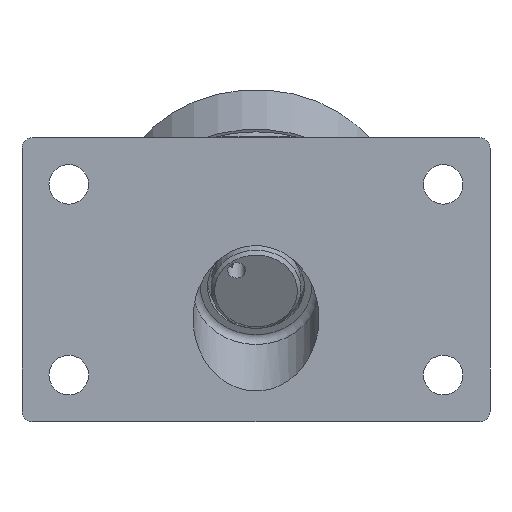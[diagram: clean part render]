
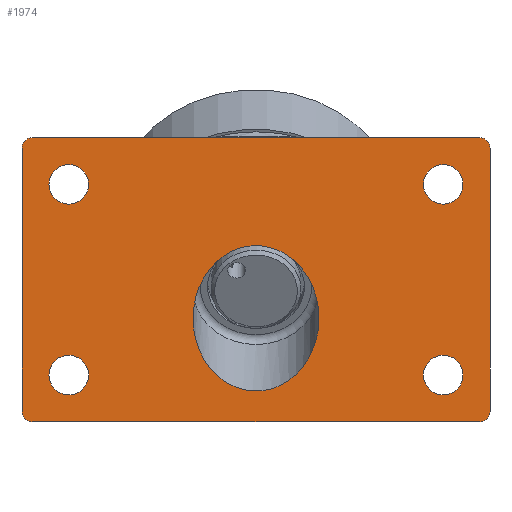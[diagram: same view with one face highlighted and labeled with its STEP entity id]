
A CAD part, front view. The second image highlights one B-rep face of the part: STEP entity #1974.
In plain terms, the highlighted planar face has unit normal (0, -1, 0) as drawn and (0, 0, -1) by its records, which use the part's own axes.
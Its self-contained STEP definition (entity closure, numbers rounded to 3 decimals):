
#50=ELLIPSE('',#2268,20.207,17.5);
#158=LINE('',#3794,#237);
#161=LINE('',#3802,#240);
#164=LINE('',#3810,#243);
#166=LINE('',#3816,#245);
#237=VECTOR('',#2719,73.);
#240=VECTOR('',#2728,124.);
#243=VECTOR('',#2737,73.);
#245=VECTOR('',#2745,124.);
#338=FACE_BOUND('',#621,.T.);
#339=FACE_BOUND('',#622,.T.);
#340=FACE_BOUND('',#623,.T.);
#341=FACE_BOUND('',#624,.T.);
#342=FACE_BOUND('',#625,.T.);
#374=PLANE('',#2271);
#473=FACE_OUTER_BOUND('',#620,.T.);
#620=EDGE_LOOP('',(#1597,#1598,#1599,#1600,#1601,#1602,#1603,#1604));
#621=EDGE_LOOP('',(#1605));
#622=EDGE_LOOP('',(#1606));
#623=EDGE_LOOP('',(#1607));
#624=EDGE_LOOP('',(#1608));
#625=EDGE_LOOP('',(#1609));
#765=CIRCLE('',#2247,3.);
#766=CIRCLE('',#2250,3.);
#767=CIRCLE('',#2253,3.);
#768=CIRCLE('',#2256,3.);
#775=CIRCLE('',#2272,5.5);
#776=CIRCLE('',#2273,5.5);
#777=CIRCLE('',#2274,5.5);
#778=CIRCLE('',#2275,5.5);
#916=VERTEX_POINT('',#3786);
#917=VERTEX_POINT('',#3788);
#918=VERTEX_POINT('',#3792);
#919=VERTEX_POINT('',#3796);
#920=VERTEX_POINT('',#3800);
#921=VERTEX_POINT('',#3804);
#922=VERTEX_POINT('',#3808);
#923=VERTEX_POINT('',#3812);
#928=VERTEX_POINT('',#3831);
#930=VERTEX_POINT('',#3840);
#931=VERTEX_POINT('',#3842);
#932=VERTEX_POINT('',#3844);
#933=VERTEX_POINT('',#3846);
#1141=EDGE_CURVE('',#916,#917,#765,.T.);
#1144=EDGE_CURVE('',#916,#918,#158,.T.);
#1146=EDGE_CURVE('',#919,#918,#766,.T.);
#1148=EDGE_CURVE('',#919,#920,#161,.T.);
#1150=EDGE_CURVE('',#921,#920,#767,.T.);
#1152=EDGE_CURVE('',#921,#922,#164,.T.);
#1154=EDGE_CURVE('',#923,#922,#768,.T.);
#1155=EDGE_CURVE('',#923,#917,#166,.T.);
#1162=EDGE_CURVE('',#928,#928,#50,.T.);
#1166=EDGE_CURVE('',#930,#930,#775,.T.);
#1167=EDGE_CURVE('',#931,#931,#776,.T.);
#1168=EDGE_CURVE('',#932,#932,#777,.T.);
#1169=EDGE_CURVE('',#933,#933,#778,.T.);
#1597=ORIENTED_EDGE('',*,*,#1150,.F.);
#1598=ORIENTED_EDGE('',*,*,#1152,.T.);
#1599=ORIENTED_EDGE('',*,*,#1154,.F.);
#1600=ORIENTED_EDGE('',*,*,#1155,.T.);
#1601=ORIENTED_EDGE('',*,*,#1141,.F.);
#1602=ORIENTED_EDGE('',*,*,#1144,.T.);
#1603=ORIENTED_EDGE('',*,*,#1146,.F.);
#1604=ORIENTED_EDGE('',*,*,#1148,.T.);
#1605=ORIENTED_EDGE('',*,*,#1162,.T.);
#1606=ORIENTED_EDGE('',*,*,#1166,.T.);
#1607=ORIENTED_EDGE('',*,*,#1167,.T.);
#1608=ORIENTED_EDGE('',*,*,#1168,.T.);
#1609=ORIENTED_EDGE('',*,*,#1169,.T.);
#1974=ADVANCED_FACE('',(#473,#338,#339,#340,#341,#342),#374,.F.);
#2247=AXIS2_PLACEMENT_3D('',#3789,#2713,#2714);
#2250=AXIS2_PLACEMENT_3D('',#3798,#2723,#2724);
#2253=AXIS2_PLACEMENT_3D('',#3806,#2732,#2733);
#2256=AXIS2_PLACEMENT_3D('',#3814,#2741,#2742);
#2268=AXIS2_PLACEMENT_3D('',#3832,#2766,#2767);
#2271=AXIS2_PLACEMENT_3D('',#3839,#2775,#2776);
#2272=AXIS2_PLACEMENT_3D('',#3841,#2777,#2778);
#2273=AXIS2_PLACEMENT_3D('',#3843,#2779,#2780);
#2274=AXIS2_PLACEMENT_3D('',#3845,#2781,#2782);
#2275=AXIS2_PLACEMENT_3D('',#3847,#2783,#2784);
#2713=DIRECTION('center_axis',(0.,0.,1.));
#2714=DIRECTION('ref_axis',(-0.707,-0.707,0.));
#2719=DIRECTION('',(0.,1.,0.));
#2723=DIRECTION('center_axis',(0.,0.,1.));
#2724=DIRECTION('ref_axis',(-0.707,0.707,0.));
#2728=DIRECTION('',(1.,0.,0.));
#2732=DIRECTION('center_axis',(0.,0.,1.));
#2733=DIRECTION('ref_axis',(0.707,0.707,0.));
#2737=DIRECTION('',(0.,-1.,0.));
#2741=DIRECTION('center_axis',(0.,0.,1.));
#2742=DIRECTION('ref_axis',(0.707,-0.707,0.));
#2745=DIRECTION('',(-1.,0.,0.));
#2766=DIRECTION('center_axis',(0.,0.,1.));
#2767=DIRECTION('ref_axis',(0.,1.,0.));
#2775=DIRECTION('center_axis',(0.,0.,1.));
#2776=DIRECTION('ref_axis',(0.,-1.,0.));
#2777=DIRECTION('center_axis',(0.,0.,1.));
#2778=DIRECTION('ref_axis',(1.,0.,0.));
#2779=DIRECTION('center_axis',(0.,0.,1.));
#2780=DIRECTION('ref_axis',(1.,0.,0.));
#2781=DIRECTION('center_axis',(0.,0.,1.));
#2782=DIRECTION('ref_axis',(1.,0.,0.));
#2783=DIRECTION('center_axis',(0.,0.,1.));
#2784=DIRECTION('ref_axis',(1.,0.,0.));
#3786=CARTESIAN_POINT('',(-65.,-25.55,0.));
#3788=CARTESIAN_POINT('',(-62.,-28.55,0.));
#3789=CARTESIAN_POINT('Origin',(-62.,-25.55,0.));
#3792=CARTESIAN_POINT('',(-65.,47.45,0.));
#3794=CARTESIAN_POINT('',(-65.,-28.55,0.));
#3796=CARTESIAN_POINT('',(-62.,50.45,0.));
#3798=CARTESIAN_POINT('Origin',(-62.,47.45,0.));
#3800=CARTESIAN_POINT('',(62.,50.45,0.));
#3802=CARTESIAN_POINT('',(-65.,50.45,0.));
#3804=CARTESIAN_POINT('',(65.,47.45,0.));
#3806=CARTESIAN_POINT('Origin',(62.,47.45,0.));
#3808=CARTESIAN_POINT('',(65.,-25.55,0.));
#3810=CARTESIAN_POINT('',(65.,50.45,0.));
#3812=CARTESIAN_POINT('',(62.,-28.55,0.));
#3814=CARTESIAN_POINT('Origin',(62.,-25.55,0.));
#3816=CARTESIAN_POINT('',(65.,-28.55,0.));
#3831=CARTESIAN_POINT('',(17.5,21.68,0.));
#3832=CARTESIAN_POINT('Origin',(0.,21.68,
0.));
#3839=CARTESIAN_POINT('Origin',(0.,10.95,0.));
#3840=CARTESIAN_POINT('',(46.5,-15.55,0.));
#3841=CARTESIAN_POINT('Origin',(52.,-15.55,0.));
#3842=CARTESIAN_POINT('',(-57.5,37.45,0.));
#3843=CARTESIAN_POINT('Origin',(-52.,37.45,0.));
#3844=CARTESIAN_POINT('',(46.5,37.45,0.));
#3845=CARTESIAN_POINT('Origin',(52.,37.45,0.));
#3846=CARTESIAN_POINT('',(-57.5,-15.55,0.));
#3847=CARTESIAN_POINT('Origin',(-52.,-15.55,0.));
